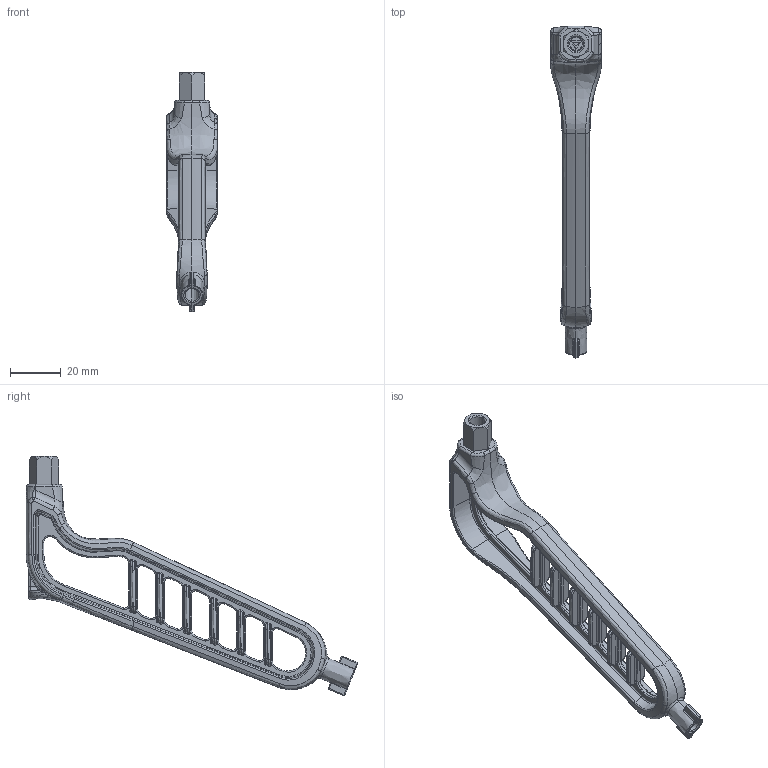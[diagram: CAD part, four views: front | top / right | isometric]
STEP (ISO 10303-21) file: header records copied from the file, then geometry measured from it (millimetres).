
FILE_DESCRIPTION (( 'STEP AP203' ), '1' );
FILE_NAME ('P.020187B.STEP', '2022-02-22T12:09:19', ( '' ), ( '' ), 'SwSTEP 2.0', 'SolidWorks 2021', '' );
FILE_SCHEMA (( 'CONFIG_CONTROL_DESIGN' ));
Length unit declared in the file: millimetre
Products named in the file (1): P.020187B
Bounding box: 20 x 130.31 x 93.93 mm (x, y, z)
Volume: 21301 mm3; surface area: 14749.5 mm2
Topology: 1 solids, 1 shells, 957 faces, 2299 edges, 1335 vertices
Faces by surface type: bspline 432, cylinder 250, plane 140, torus 79, cone 45, sphere 11
Entity records: 48115 total; most frequent: CARTESIAN_POINT 29290, ORIENTED_EDGE 4594, DIRECTION 3108, EDGE_CURVE 2297, VERTEX_POINT 1335, AXIS2_PLACEMENT_3D 1240, EDGE_LOOP 964, FACE_OUTER_BOUND 957
